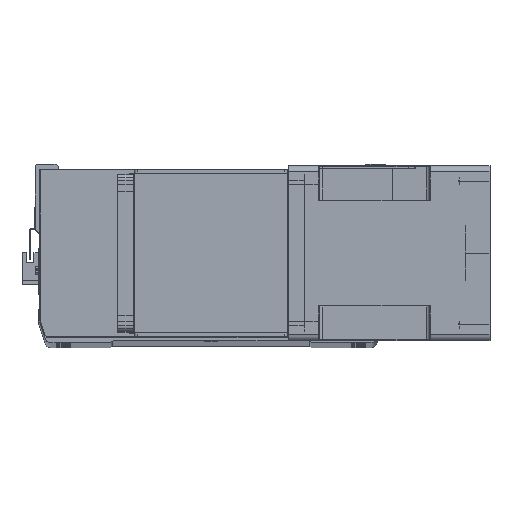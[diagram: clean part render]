
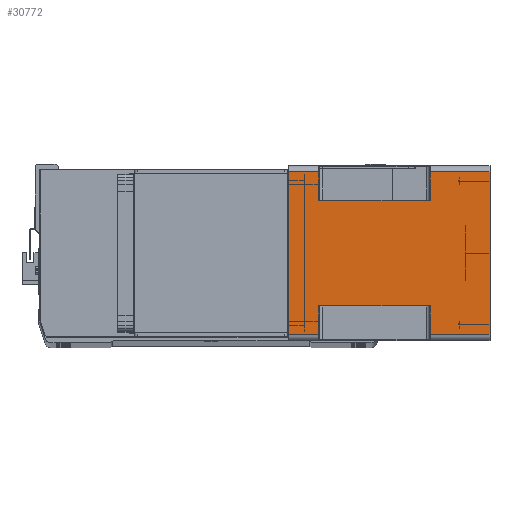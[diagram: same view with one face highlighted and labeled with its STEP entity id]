
A CAD part, top view. The second image highlights one B-rep face of the part: STEP entity #30772.
In plain terms, the highlighted planar face has unit normal (0, 0, 1) as drawn and (1, 0, 0) by its records, which use the part's own axes.
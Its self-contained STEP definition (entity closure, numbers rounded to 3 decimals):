
#1141 = VERTEX_POINT ( 'NONE', #25306 ) ;
#1349 = DIRECTION ( 'NONE',  ( 0., 0., 1. ) ) ;
#2071 = CARTESIAN_POINT ( 'NONE',  ( 71., 66., 0. ) ) ;
#2076 = CARTESIAN_POINT ( 'NONE',  ( 71., -66., -24.5 ) ) ;
#2187 = DIRECTION ( 'NONE',  ( 0., 1., 0. ) ) ;
#2223 = DIRECTION ( 'NONE',  ( 0., 1., 0. ) ) ;
#2510 = CARTESIAN_POINT ( 'NONE',  ( 71., -66., -24.5 ) ) ;
#2553 = CARTESIAN_POINT ( 'NONE',  ( 71., -66., 0. ) ) ;
#2700 = CARTESIAN_POINT ( 'NONE',  ( 71., 43., -115.5 ) ) ;
#3352 = VECTOR ( 'NONE', #33587, 1000. ) ;
#3369 = CARTESIAN_POINT ( 'NONE',  ( 71., 43., -164. ) ) ;
#3706 = DIRECTION ( 'NONE',  ( 0., 0., 1. ) ) ;
#3725 = VERTEX_POINT ( 'NONE', #4862 ) ;
#3904 = EDGE_CURVE ( 'NONE', #8031, #14257, #22070, .T. ) ;
#3923 = ORIENTED_EDGE ( 'NONE', *, *, #27156, .F. ) ;
#4007 = CARTESIAN_POINT ( 'NONE',  ( 71., -43., -24.5 ) ) ;
#4180 = EDGE_CURVE ( 'NONE', #25310, #28560, #15115, .T. ) ;
#4295 = ORIENTED_EDGE ( 'NONE', *, *, #12120, .F. ) ;
#4714 = VECTOR ( 'NONE', #3706, 1000. ) ;
#4795 = ORIENTED_EDGE ( 'NONE', *, *, #31489, .F. ) ;
#4810 = VERTEX_POINT ( 'NONE', #2076 ) ;
#4819 = DIRECTION ( 'NONE',  ( 0., 1., 0. ) ) ;
#4862 = CARTESIAN_POINT ( 'NONE',  ( 71., 66., -24.5 ) ) ;
#5039 = ORIENTED_EDGE ( 'NONE', *, *, #5222, .T. ) ;
#5116 = EDGE_CURVE ( 'NONE', #4810, #25310, #8160, .T. ) ;
#5222 = EDGE_CURVE ( 'NONE', #32792, #12855, #10567, .T. ) ;
#5323 = VECTOR ( 'NONE', #7658, 1000. ) ;
#5447 = EDGE_CURVE ( 'NONE', #6702, #32792, #32818, .T. ) ;
#5496 = LINE ( 'NONE', #17931, #29413 ) ;
#6048 = ORIENTED_EDGE ( 'NONE', *, *, #28663, .T. ) ;
#6262 = CARTESIAN_POINT ( 'NONE',  ( 71., -66., -164. ) ) ;
#6295 = CARTESIAN_POINT ( 'NONE',  ( 71., -43., -164. ) ) ;
#6420 = ORIENTED_EDGE ( 'NONE', *, *, #32524, .T. ) ;
#6702 = VERTEX_POINT ( 'NONE', #14213 ) ;
#7581 = LINE ( 'NONE', #30353, #23359 ) ;
#7658 = DIRECTION ( 'NONE',  ( 0., -1., 0. ) ) ;
#8031 = VERTEX_POINT ( 'NONE', #26471 ) ;
#8160 = LINE ( 'NONE', #12156, #33275 ) ;
#9573 = DIRECTION ( 'NONE',  ( 0., 0., 1. ) ) ;
#10382 = CARTESIAN_POINT ( 'NONE',  ( 71., -43., -24.5 ) ) ;
#10567 = LINE ( 'NONE', #2700, #5323 ) ;
#11169 = VERTEX_POINT ( 'NONE', #4007 ) ;
#11234 = DIRECTION ( 'NONE',  ( 0., -1., 0. ) ) ;
#11792 = EDGE_CURVE ( 'NONE', #3725, #28560, #7581, .T. ) ;
#12120 = EDGE_CURVE ( 'NONE', #1141, #14257, #22951, .T. ) ;
#12156 = CARTESIAN_POINT ( 'NONE',  ( 71., -66., -164. ) ) ;
#12624 = CARTESIAN_POINT ( 'NONE',  ( 71., -66., -115.5 ) ) ;
#12855 = VERTEX_POINT ( 'NONE', #20589 ) ;
#13904 = VECTOR ( 'NONE', #2223, 1000. ) ;
#14213 = CARTESIAN_POINT ( 'NONE',  ( 71., 66., -164. ) ) ;
#14257 = VERTEX_POINT ( 'NONE', #12624 ) ;
#14528 = ORIENTED_EDGE ( 'NONE', *, *, #11792, .T. ) ;
#14583 = DIRECTION ( 'NONE',  ( 1., 0., 0. ) ) ;
#14712 = VECTOR ( 'NONE', #11234, 1000. ) ;
#15014 = LINE ( 'NONE', #3369, #17462 ) ;
#15115 = LINE ( 'NONE', #2553, #13904 ) ;
#16529 = ORIENTED_EDGE ( 'NONE', *, *, #5447, .T. ) ;
#17363 = ORIENTED_EDGE ( 'NONE', *, *, #5116, .F. ) ;
#17462 = VECTOR ( 'NONE', #24005, 1000. ) ;
#17931 = CARTESIAN_POINT ( 'NONE',  ( 71., -66., -164. ) ) ;
#19210 = FACE_OUTER_BOUND ( 'NONE', #30358, .T. ) ;
#19716 = AXIS2_PLACEMENT_3D ( 'NONE', #30269, #14583, #32725 ) ;
#20524 = CARTESIAN_POINT ( 'NONE',  ( 71., -66., 0. ) ) ;
#20589 = CARTESIAN_POINT ( 'NONE',  ( 71., 43., -115.5 ) ) ;
#21122 = VECTOR ( 'NONE', #2187, 1000. ) ;
#21218 = VERTEX_POINT ( 'NONE', #30720 ) ;
#21813 = DIRECTION ( 'NONE',  ( 0., 0., 1. ) ) ;
#21934 = CARTESIAN_POINT ( 'NONE',  ( 71., 66., -164. ) ) ;
#22070 = LINE ( 'NONE', #26313, #14712 ) ;
#22951 = LINE ( 'NONE', #6262, #4714 ) ;
#23359 = VECTOR ( 'NONE', #27410, 1000. ) ;
#23729 = ORIENTED_EDGE ( 'NONE', *, *, #3904, .T. ) ;
#23910 = LINE ( 'NONE', #2510, #21122 ) ;
#24005 = DIRECTION ( 'NONE',  ( 0., 0., -1. ) ) ;
#24733 = CARTESIAN_POINT ( 'NONE',  ( 71., 66., -115.5 ) ) ;
#25264 = LINE ( 'NONE', #6295, #28929 ) ;
#25306 = CARTESIAN_POINT ( 'NONE',  ( 71., -66., -164. ) ) ;
#25310 = VERTEX_POINT ( 'NONE', #20524 ) ;
#25358 = PLANE ( 'NONE',  #19716 ) ;
#25936 = VECTOR ( 'NONE', #21813, 1000. ) ;
#26313 = CARTESIAN_POINT ( 'NONE',  ( 71., -66., -115.5 ) ) ;
#26471 = CARTESIAN_POINT ( 'NONE',  ( 71., -43., -115.5 ) ) ;
#27156 = EDGE_CURVE ( 'NONE', #8031, #11169, #25264, .T. ) ;
#27410 = DIRECTION ( 'NONE',  ( 0., 0., 1. ) ) ;
#28560 = VERTEX_POINT ( 'NONE', #2071 ) ;
#28663 = EDGE_CURVE ( 'NONE', #4810, #11169, #30884, .T. ) ;
#28929 = VECTOR ( 'NONE', #1349, 1000. ) ;
#29288 = ORIENTED_EDGE ( 'NONE', *, *, #4180, .F. ) ;
#29413 = VECTOR ( 'NONE', #4819, 1000. ) ;
#30139 = EDGE_CURVE ( 'NONE', #1141, #6702, #5496, .T. ) ;
#30269 = CARTESIAN_POINT ( 'NONE',  ( 71., -66., -164. ) ) ;
#30353 = CARTESIAN_POINT ( 'NONE',  ( 71., 66., -164. ) ) ;
#30358 = EDGE_LOOP ( 'NONE', ( #3923, #23729, #4295, #30811, #16529, #5039, #4795, #6420, #14528, #29288, #17363, #6048 ) ) ;
#30720 = CARTESIAN_POINT ( 'NONE',  ( 71., 43., -24.5 ) ) ;
#30772 = ADVANCED_FACE ( 'NONE', ( #19210 ), #25358, .T. ) ;
#30811 = ORIENTED_EDGE ( 'NONE', *, *, #30139, .T. ) ;
#30884 = LINE ( 'NONE', #10382, #3352 ) ;
#31489 = EDGE_CURVE ( 'NONE', #21218, #12855, #15014, .T. ) ;
#32524 = EDGE_CURVE ( 'NONE', #21218, #3725, #23910, .T. ) ;
#32725 = DIRECTION ( 'NONE',  ( 0., 1., 0. ) ) ;
#32792 = VERTEX_POINT ( 'NONE', #24733 ) ;
#32818 = LINE ( 'NONE', #21934, #25936 ) ;
#33275 = VECTOR ( 'NONE', #9573, 1000. ) ;
#33587 = DIRECTION ( 'NONE',  ( 0., 1., 0. ) ) ;
